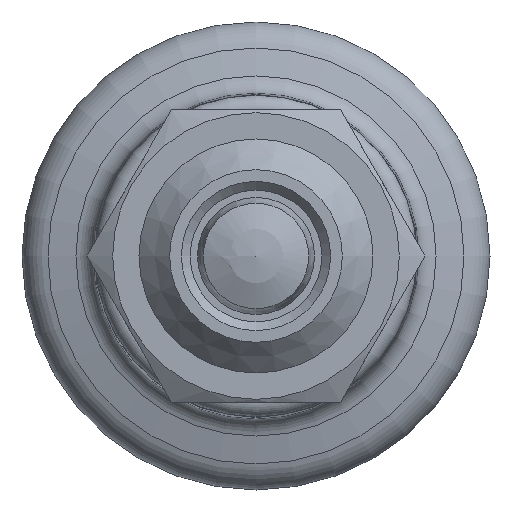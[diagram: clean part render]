
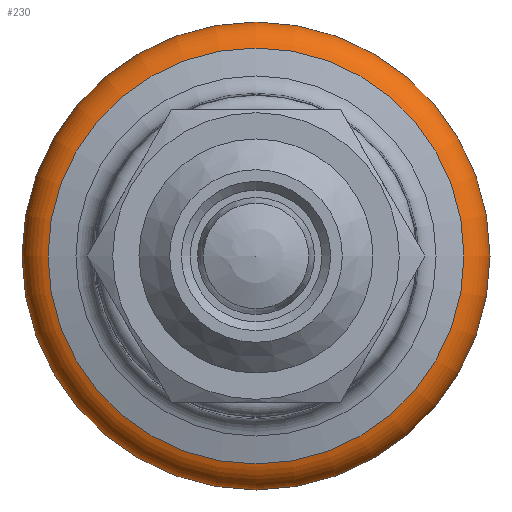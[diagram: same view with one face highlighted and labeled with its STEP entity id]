
A CAD part, front view. The second image highlights one B-rep face of the part: STEP entity #230.
In plain terms, the highlighted toroidal (fillet/blend) face has major radius 6.8 mm and minor radius 1.2 mm.
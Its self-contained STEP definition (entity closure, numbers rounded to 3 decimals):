
#230 = ADVANCED_FACE( '', ( #312, #313 ), #314, .T. );
#312 = FACE_OUTER_BOUND( '', #455, .T. );
#313 = FACE_OUTER_BOUND( '', #456, .T. );
#314 = TOROIDAL_SURFACE( '', #457, 6.8, 1.2 );
#455 = EDGE_LOOP( '', ( #636 ) );
#456 = EDGE_LOOP( '', ( #637 ) );
#457 = AXIS2_PLACEMENT_3D( '', #638, #639, #640 );
#636 = ORIENTED_EDGE( '', *, *, #741, .T. );
#637 = ORIENTED_EDGE( '', *, *, #742, .F. );
#638 = CARTESIAN_POINT( '', ( 0., 34.921, 0. ) );
#639 = DIRECTION( '', ( 0., -1., 0. ) );
#640 = DIRECTION( '', ( 0., 0., -1. ) );
#741 = EDGE_CURVE( '', #818, #818, #819, .T. );
#742 = EDGE_CURVE( '', #820, #820, #821, .T. );
#818 = VERTEX_POINT( '', #1022 );
#819 = CIRCLE( '', #1023, 8. );
#820 = VERTEX_POINT( '', #1024 );
#821 = CIRCLE( '', #1025, 7.111 );
#1022 = CARTESIAN_POINT( '', ( 0., 34.921, -8. ) );
#1023 = AXIS2_PLACEMENT_3D( '', #1104, #1105, #1106 );
#1024 = CARTESIAN_POINT( '', ( 0., 33.762, -7.111 ) );
#1025 = AXIS2_PLACEMENT_3D( '', #1107, #1108, #1109 );
#1104 = CARTESIAN_POINT( '', ( 0., 34.921, 0. ) );
#1105 = DIRECTION( '', ( 0., -1., 0. ) );
#1106 = DIRECTION( '', ( 0., 0., -1. ) );
#1107 = CARTESIAN_POINT( '', ( 0., 33.762, 0. ) );
#1108 = DIRECTION( '', ( 0., -1., 0. ) );
#1109 = DIRECTION( '', ( 0., 0., -1. ) );
